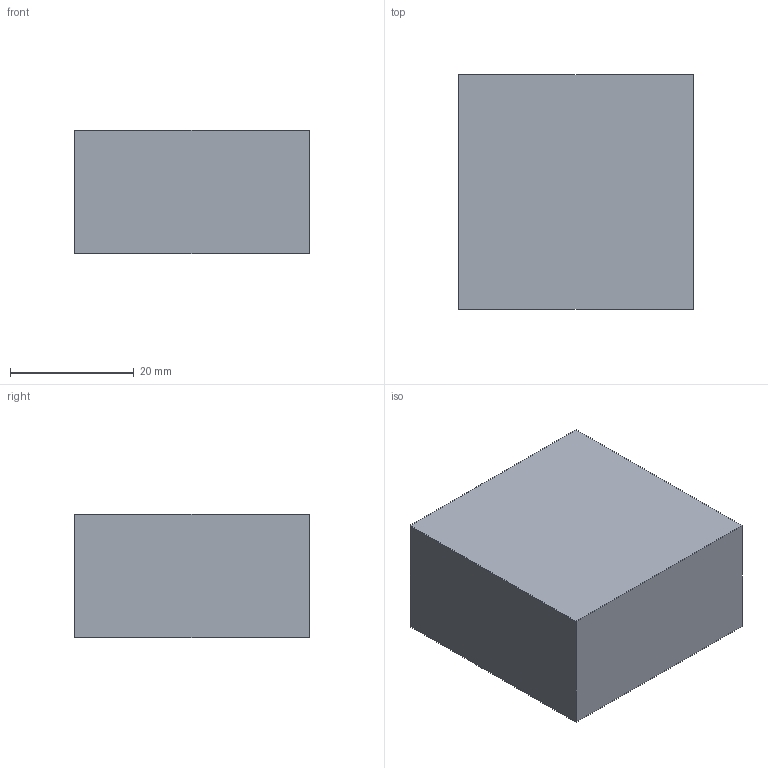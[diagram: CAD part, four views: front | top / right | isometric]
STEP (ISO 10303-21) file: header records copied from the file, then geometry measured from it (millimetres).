
FILE_DESCRIPTION (( 'STEP AP203' ), '1' );
FILE_NAME ('FTNES02.STEP', '2026-06-26T01:19:19', ( 'USER' ), ( '' ), 'SwSTEP 2.0', 'SolidWorks 2023', '' );
FILE_SCHEMA (( 'CONFIG_CONTROL_DESIGN' ));
Length unit declared in the file: millimetre
Products named in the file (1): FTNES02
Bounding box: 38 x 38 x 20 mm (x, y, z)
Volume: 26961.1 mm3; surface area: 6769.3 mm2
Topology: 1 solids, 1 shells, 32 faces, 68 edges, 38 vertices
Faces by surface type: cone 12, cylinder 12, plane 8
Entity records: 925 total; most frequent: CARTESIAN_POINT 163, DIRECTION 154, ORIENTED_EDGE 136, EDGE_CURVE 68, AXIS2_PLACEMENT_3D 61, VERTEX_POINT 38, EDGE_LOOP 34, FACE_OUTER_BOUND 32
